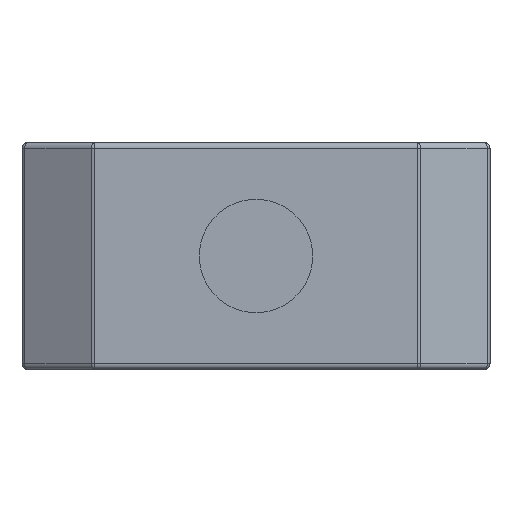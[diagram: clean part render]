
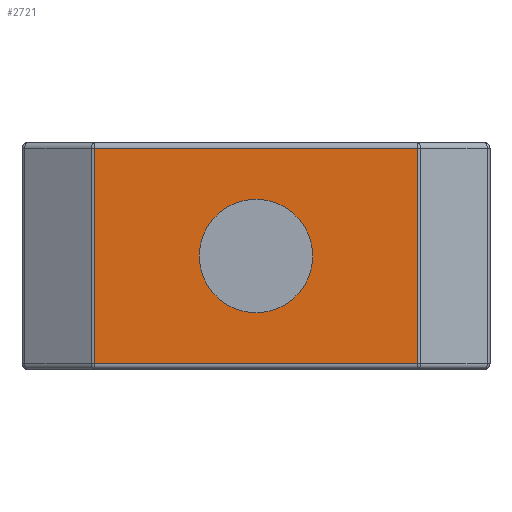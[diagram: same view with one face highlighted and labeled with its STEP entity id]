
A CAD part, left-side view. The second image highlights one B-rep face of the part: STEP entity #2721.
In plain terms, the highlighted planar face has unit normal (-1, 0, 0).
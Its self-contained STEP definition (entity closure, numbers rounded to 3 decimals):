
#69 = CARTESIAN_POINT ( 'NONE',  ( -13., 8.25, -3.8 ) ) ;
#226 = VERTEX_POINT ( 'NONE', #4104 ) ;
#263 = CARTESIAN_POINT ( 'NONE',  ( -13., -5.695, 4. ) ) ;
#309 = DIRECTION ( 'NONE',  ( 0., 0., -1. ) ) ;
#312 = CARTESIAN_POINT ( 'NONE',  ( -13., 0., 0. ) ) ;
#320 = ORIENTED_EDGE ( 'NONE', *, *, #876, .T. ) ;
#328 = DIRECTION ( 'NONE',  ( 1., 0., 0. ) ) ;
#414 = EDGE_CURVE ( 'NONE', #1327, #3866, #627, .T. ) ;
#627 = LINE ( 'NONE', #910, #3290 ) ;
#669 = VECTOR ( 'NONE', #3403, 1000. ) ;
#733 = VERTEX_POINT ( 'NONE', #1865 ) ;
#748 = AXIS2_PLACEMENT_3D ( 'NONE', #1678, #3341, #1576 ) ;
#798 = ORIENTED_EDGE ( 'NONE', *, *, #2322, .T. ) ;
#801 = ORIENTED_EDGE ( 'NONE', *, *, #4192, .T. ) ;
#831 = VECTOR ( 'NONE', #2031, 1000. ) ;
#876 = EDGE_CURVE ( 'NONE', #3174, #733, #2937, .T. ) ;
#910 = CARTESIAN_POINT ( 'NONE',  ( -13., 5.695, 4. ) ) ;
#966 = ORIENTED_EDGE ( 'NONE', *, *, #414, .T. ) ;
#978 = EDGE_CURVE ( 'NONE', #3866, #226, #3354, .T. ) ;
#1255 = EDGE_CURVE ( 'NONE', #2705, #1327, #3048, .T. ) ;
#1327 = VERTEX_POINT ( 'NONE', #3069 ) ;
#1405 = CARTESIAN_POINT ( 'NONE',  ( -13., 5.75, 3.8 ) ) ;
#1554 = PLANE ( 'NONE',  #748 ) ;
#1576 = DIRECTION ( 'NONE',  ( 0., 1., 0. ) ) ;
#1678 = CARTESIAN_POINT ( 'NONE',  ( -13., 8.25, 4. ) ) ;
#1697 = FACE_OUTER_BOUND ( 'NONE', #3630, .T. ) ;
#1743 = AXIS2_PLACEMENT_3D ( 'NONE', #312, #3906, #3618 ) ;
#1865 = CARTESIAN_POINT ( 'NONE',  ( -13., 0., -2. ) ) ;
#2031 = DIRECTION ( 'NONE',  ( 0., -1., 0. ) ) ;
#2322 = EDGE_CURVE ( 'NONE', #733, #3174, #3752, .T. ) ;
#2635 = ORIENTED_EDGE ( 'NONE', *, *, #978, .T. ) ;
#2705 = VERTEX_POINT ( 'NONE', #3365 ) ;
#2721 = ADVANCED_FACE ( 'NONE', ( #1697, #4041 ), #1554, .F. ) ;
#2937 = CIRCLE ( 'NONE', #1743, 2. ) ;
#3048 = LINE ( 'NONE', #1405, #669 ) ;
#3060 = CARTESIAN_POINT ( 'NONE',  ( -13., 5.695, -3.8 ) ) ;
#3069 = CARTESIAN_POINT ( 'NONE',  ( -13., 5.695, 3.8 ) ) ;
#3174 = VERTEX_POINT ( 'NONE', #3317 ) ;
#3248 = CARTESIAN_POINT ( 'NONE',  ( -13., 0., 0. ) ) ;
#3290 = VECTOR ( 'NONE', #4262, 1000. ) ;
#3317 = CARTESIAN_POINT ( 'NONE',  ( -13., 0., 2. ) ) ;
#3323 = DIRECTION ( 'NONE',  ( 0., 0., 1. ) ) ;
#3341 = DIRECTION ( 'NONE',  ( 1., 0., 0. ) ) ;
#3354 = LINE ( 'NONE', #69, #831 ) ;
#3365 = CARTESIAN_POINT ( 'NONE',  ( -13., -5.695, 3.8 ) ) ;
#3403 = DIRECTION ( 'NONE',  ( 0., 1., 0. ) ) ;
#3561 = VECTOR ( 'NONE', #3323, 1000. ) ;
#3618 = DIRECTION ( 'NONE',  ( 0., 0., -1. ) ) ;
#3630 = EDGE_LOOP ( 'NONE', ( #966, #2635, #801, #4263 ) ) ;
#3692 = EDGE_LOOP ( 'NONE', ( #798, #320 ) ) ;
#3752 = CIRCLE ( 'NONE', #3963, 2. ) ;
#3866 = VERTEX_POINT ( 'NONE', #3060 ) ;
#3906 = DIRECTION ( 'NONE',  ( 1., 0., 0. ) ) ;
#3963 = AXIS2_PLACEMENT_3D ( 'NONE', #3248, #328, #309 ) ;
#3981 = LINE ( 'NONE', #263, #3561 ) ;
#4041 = FACE_BOUND ( 'NONE', #3692, .T. ) ;
#4104 = CARTESIAN_POINT ( 'NONE',  ( -13., -5.695, -3.8 ) ) ;
#4192 = EDGE_CURVE ( 'NONE', #226, #2705, #3981, .T. ) ;
#4262 = DIRECTION ( 'NONE',  ( 0., 0., -1. ) ) ;
#4263 = ORIENTED_EDGE ( 'NONE', *, *, #1255, .T. ) ;
